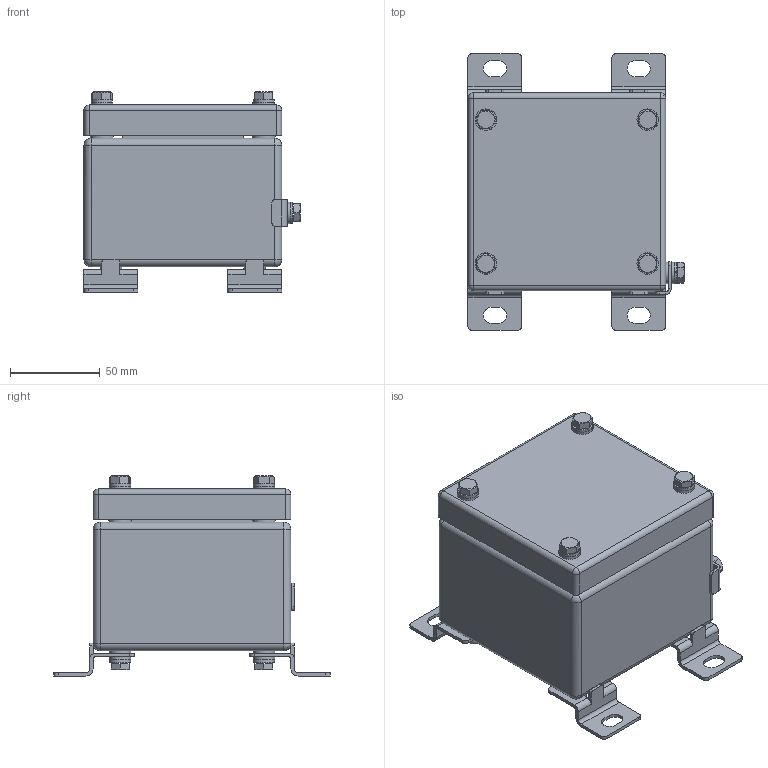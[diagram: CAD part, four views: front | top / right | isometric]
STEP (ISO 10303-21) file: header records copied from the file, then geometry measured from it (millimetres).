
FILE_DESCRIPTION((''),'2;1');
FILE_NAME('\\192.168.5.25\cortem_klient\INVENTOR БАЗА МОДЕЛЕЙ\Актуальная база моделей для отдела продаж\КСРВ-М\КСРВ-М111109_М3.stp','2019-04-09T14:23:35',('A.S.Kozlov'),(''),'Autodesk Inventor 2012','Autodesk Inventor 2012','');
FILE_SCHEMA(('CONFIG_CONTROL_DESIGN'));
Length unit declared in the file: millimetre
Products named in the file (1): КСРВ-(параметрическая модель)_Внешний контур_1
Bounding box: 120.2 x 154 x 111.2 mm (x, y, z)
Surface area: 111317.6 mm2 (no closed solid volume)
Topology: 0 solids, 56 shells, 354 faces, 1027 edges, 690 vertices
Faces by surface type: plane 185, cylinder 124, cone 33, sphere 12
Full cylindrical faces by diameter (mm): 5 x1, 5.459 x1, 9 x2, 10 x4, 12 x14, 12.7 x4
Entity records: 11966 total; most frequent: CARTESIAN_POINT 2191, DIRECTION 1973, ORIENTED_EDGE 1703, EDGE_CURVE 986, AXIS2_PLACEMENT_3D 716, VERTEX_POINT 682, VECTOR 541, LINE 541
